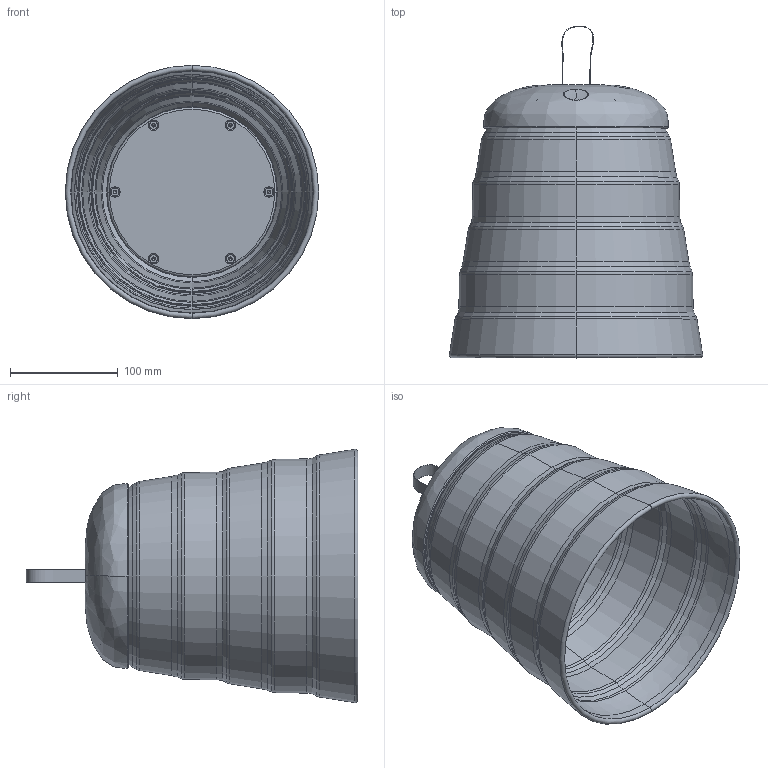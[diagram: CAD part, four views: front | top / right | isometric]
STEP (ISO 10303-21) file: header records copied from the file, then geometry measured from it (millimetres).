
FILE_DESCRIPTION (( 'STEP AP214' ), '1' );
FILE_NAME ('286_STD_OT_LD_3D.STEP', '2021-05-20T15:13:38', ( '' ), ( '' ), 'SwSTEP 2.0', 'SolidWorks 2021', '' );
FILE_SCHEMA (( 'AUTOMOTIVE_DESIGN' ));
Length unit declared in the file: millimetre
Products named in the file (1): 286_STD_OT_LD_3D
Bounding box: 235.25 x 308.08 x 235.25 mm (x, y, z)
Volume: 654123.5 mm3; surface area: 450337.7 mm2
Topology: 5 solids, 5 shells, 790 faces, 1940 edges, 1202 vertices
Faces by surface type: cone 272, plane 230, torus 145, cylinder 79, bspline 60, sphere 4
Entity records: 38789 total; most frequent: CARTESIAN_POINT 12002, ORIENTED_EDGE 3840, DIRECTION 3729, EDGE_CURVE 1920, AXIS2_PLACEMENT_3D 1583, VERTEX_POINT 1198, EDGE_LOOP 884, CIRCLE 852
